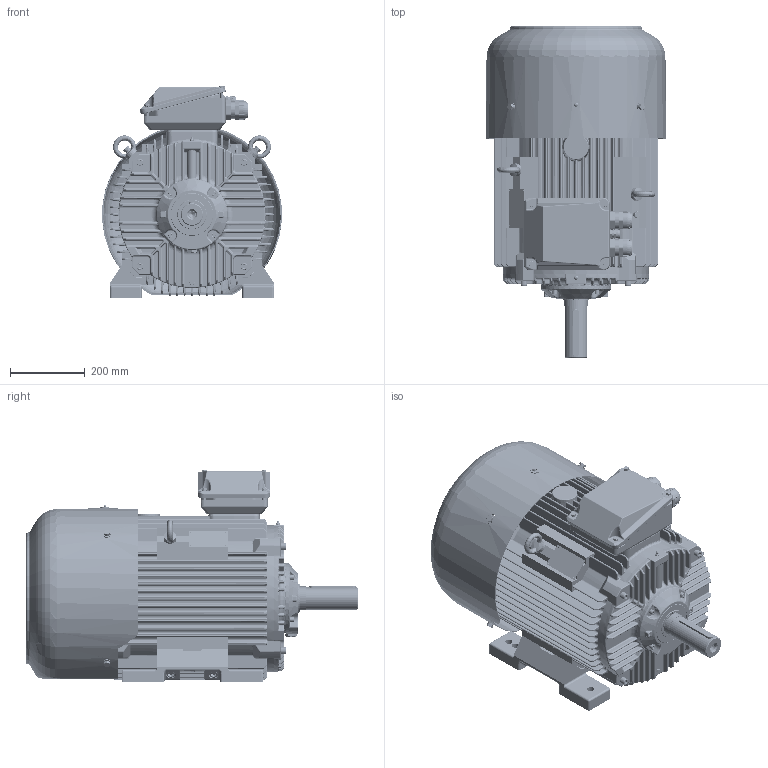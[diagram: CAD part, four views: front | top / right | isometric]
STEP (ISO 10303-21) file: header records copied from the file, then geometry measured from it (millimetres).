
FILE_DESCRIPTION(/* description */ ('Unknown'),/* implementation_level */ '2;1');
FILE_NAME(/* name */ 'SIE225(4-12)-K',/* time_stamp */ '2021-12-28T13:12:42+01:00',/* author */ ('Unknown'),/* organization */ ('Unknown'),/* preprocessor_version */ 'ST-DEVELOPER v16.7',/* originating_system */ 'DEX',/* authorisation */ $);
FILE_SCHEMA (('AUTOMOTIVE_DESIGN {1 0 10303 214 3 1 1}'));
Length unit declared in the file: millimetre
Products named in the file (1): SIE225(4-12)-K
Bounding box: 482.33 x 890 x 570.4 mm (x, y, z)
Volume: 17052644.2 mm3; surface area: 4736900.7 mm2
Topology: 1 solids, 26 shells, 10208 faces, 26763 edges, 16360 vertices
Faces by surface type: plane 4933, cylinder 2483, bspline 1312, torus 829, sphere 346, cone 305
Full cylindrical faces by diameter (mm): 1.5 x2, 3 x2, 3.242 x2, 3.5 x4, 4 x2, 4.134 x2, 5 x2, 6 x5, 6.466 x5, 6.647 x12, 8 x15, 8.16 x5, 8.376 x8, 8.917 x2, 9 x9, 9.091 x1, 9.853 x4, 10 x23, 10.106 x8, 10.5 x4, 11 x1, 11.63 x5, 12 x8, 13 x7, 13.546 x4, 13.835 x4, 14 x10, 14.376 x9, 14.63 x5, 16 x8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
Entity records: 404942 total; most frequent: CARTESIAN_POINT 89984, ORIENTED_EDGE 51204, DIRECTION 48782, EDGE_CURVE 25602, AXIS2_PLACEMENT_3D 16900, VERTEX_POINT 16033, LINE 14982, VECTOR 14982
